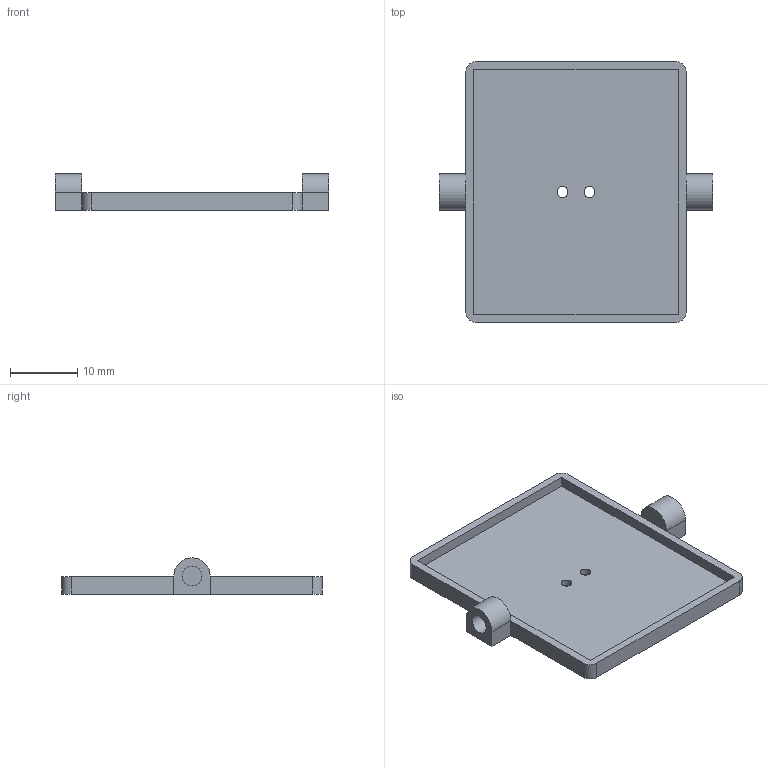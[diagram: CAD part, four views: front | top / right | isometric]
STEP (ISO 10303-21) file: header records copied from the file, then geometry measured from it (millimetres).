
FILE_DESCRIPTION(('Open CASCADE Model'),'2;1');
FILE_NAME('Open CASCADE Shape Model','2026-10-30T16:43:28',('Author'),( 'Open CASCADE'),'Open CASCADE STEP processor 8.0','Open CASCADE 8.0' ,'Unknown');
FILE_SCHEMA(('AP242_MANAGED_MODEL_BASED_3D_ENGINEERING_MIM_LF {1 0 10303 442 1 1 4 }' ));
Length unit declared in the file: millimetre
Products named in the file (1): Open CASCADE STEP translator 8.0 7
Bounding box: 40.8 x 38.8 x 5.4 mm (x, y, z)
Volume: 1695.9 mm3; surface area: 3384.3 mm2
Topology: 1 solids, 1 shells, 33 faces, 80 edges, 52 vertices
Faces by surface type: plane 23, cylinder 10
Full cylindrical faces by diameter (mm): 1.6 x2, 2.9 x2
Entity records: 2009 total; most frequent: CARTESIAN_POINT 346, DIRECTION 313, LINE 186, VECTOR 186, ORIENTED_EDGE 160, PCURVE 160, DEFINITIONAL_REPRESENTATION 160, EDGE_CURVE 80
